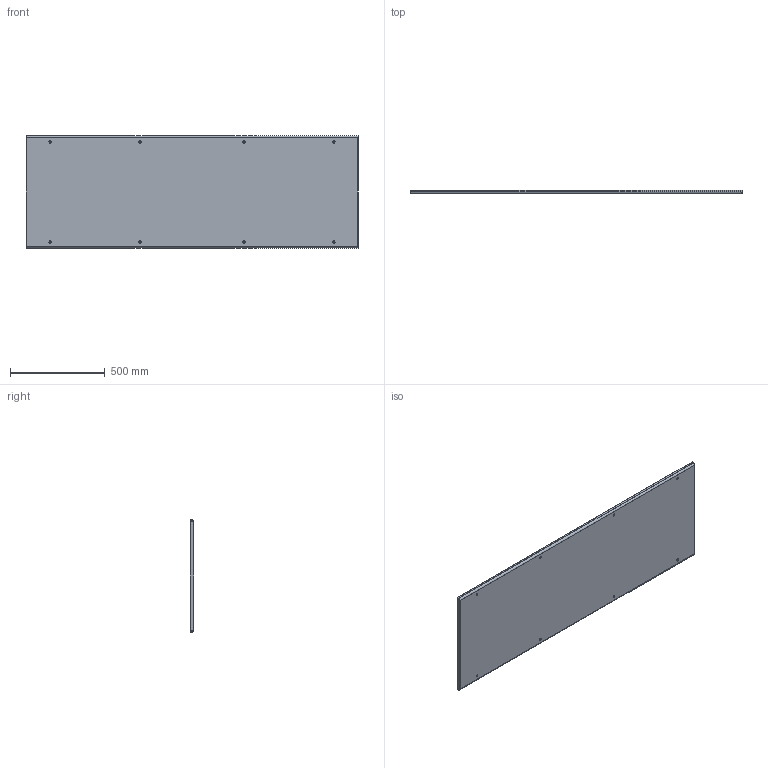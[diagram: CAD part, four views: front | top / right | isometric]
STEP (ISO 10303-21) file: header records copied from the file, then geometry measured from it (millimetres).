
FILE_DESCRIPTION(('CAx-IF Rec.Pracs.---Model Styling and Organization---1.2---2011-12-15','CAx-IF Rec.Pracs.---Geometric and Assembly Validation Properties---4.1---2014-06-16','CAx-IF Rec.Pracs.---PMI Polyline Presentation---2.0---2013-05-24'),'2;1');
FILE_NAME('R5CRE1860.stp','2021-05-06T03:12:10+03:00',(''),(''),'STEP Interface 4.4 by CT CoreTechnologie','3D_Evolution4.4 by CT CoreTechnologie','');
FILE_SCHEMA(('AUTOMOTIVE_DESIGN { 1 0 10303 214 1 1 1 1 }'));
Length unit declared in the file: millimetre
Products named in the file (4): R5CRE1860; AC00C622; QB05T065; QB05C065
Assembly tree (10 placements, depth 3):
  R5CRE1860
    AC00C622  x8
    QB05T065
      QB05C065
Bounding box: 1755 x 20 x 594 mm (x, y, z)
Surface area: 2244153.3 mm2 (no closed solid volume)
Topology: 0 solids, 11 shells, 286 faces, 808 edges, 544 vertices
Faces by surface type: plane 262, bspline 16, cylinder 8
Entity records: 3015 total; most frequent: CARTESIAN_POINT 667, ORIENTED_EDGE 440, DIRECTION 414, EDGE_CURVE 220, VECTOR 168, LINE 168, VERTEX_POINT 152, AXIS2_PLACEMENT_3D 123
